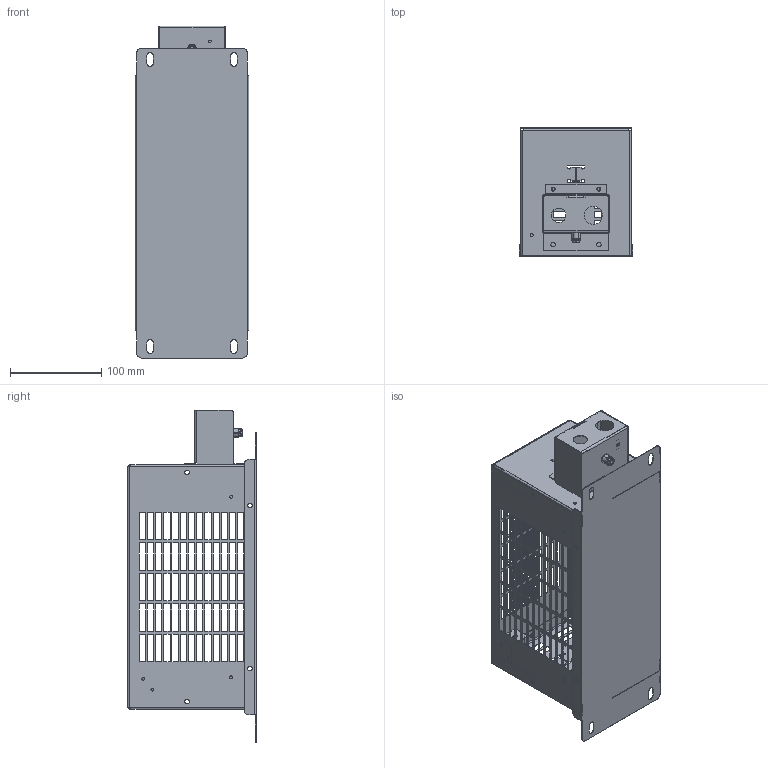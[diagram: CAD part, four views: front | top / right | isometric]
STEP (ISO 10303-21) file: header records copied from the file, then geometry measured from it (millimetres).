
FILE_DESCRIPTION(/* description */ (''),/* implementation_level */ '2;1');
FILE_NAME(/* name */ 'C:\_Vault\Dati\CATALOGO\RME\CT MARZO 2015\Assieme1-2L\Assieme1M.stp',/* time_stamp */ '2017-11-10T09:50:58+01:00',/* author */ ('Diego'),/* organization */ ('Fairfild Srl'),/* preprocessor_version */ 'ST-DEVELOPER v16.5',/* originating_system */ 'Autodesk Inventor 2017',/* authorisation */ '');
FILE_SCHEMA (('CONFIG_CONTROL_DESIGN'));
Products named in the file (1): Assieme1M
Bounding box: 124.5 x 140.9 x 364.3 mm (x, y, z)
Volume: 152774.1 mm3; surface area: 360880.7 mm2
Topology: 3 solids, 3 shells, 2468 faces, 6965 edges, 4636 vertices
Faces by surface type: plane 1681, bspline 640, cylinder 138, cone 8, torus 1
Full cylindrical faces by diameter (mm): 3 x3, 3.2 x10, 3.3 x2, 3.5 x1, 4.2 x3, 4.5 x3, 5 x23, 6 x1, 7.5 x1, 16 x1, 19 x1, 20 x1
Entity records: 85374 total; most frequent: CARTESIAN_POINT 22365, ORIENTED_EDGE 13816, DIRECTION 9556, EDGE_CURVE 6908, LINE 5322, VECTOR 5322, VERTEX_POINT 4632, EDGE_LOOP 3148
